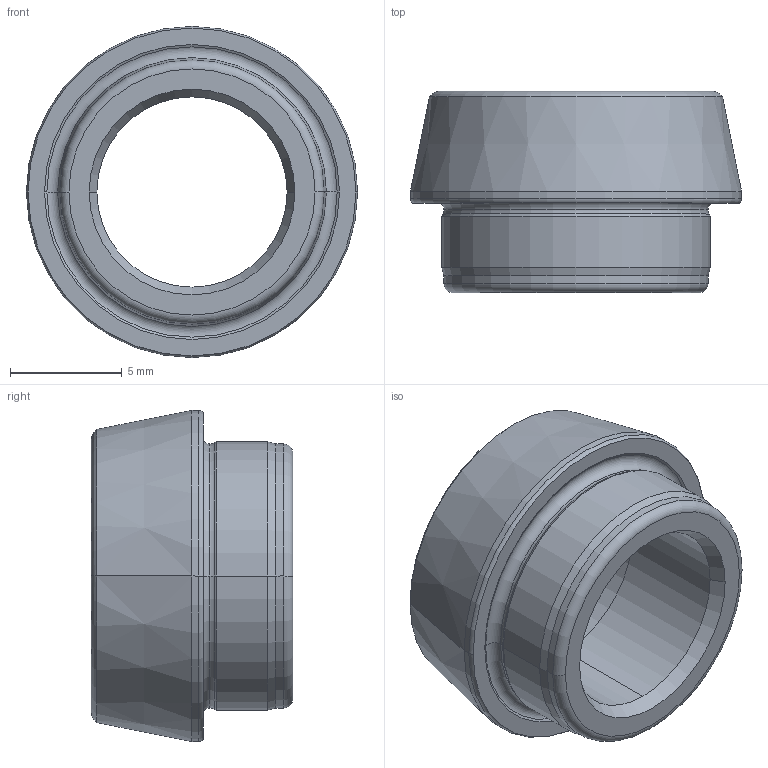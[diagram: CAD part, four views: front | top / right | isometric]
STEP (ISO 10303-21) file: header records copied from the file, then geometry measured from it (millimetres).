
FILE_DESCRIPTION (( 'STEP AP203' ), '1' );
FILE_NAME ('VXF0080-PD.STEP', '2014-11-25T04:58:01', ( '0393' ), ( 'Hewlett-Packard Company' ), 'SwSTEP 2.0', 'SolidWorks 2013', '' );
FILE_SCHEMA (( 'CONFIG_CONTROL_DESIGN' ));
Length unit declared in the file: millimetre
Products named in the file (1): VXF0080-PD
Bounding box: 14.8 x 9 x 14.8 mm (x, y, z)
Volume: 689.4 mm3; surface area: 771.8 mm2
Topology: 1 solids, 1 shells, 35 faces, 72 edges, 40 vertices
Faces by surface type: cone 12, torus 10, cylinder 10, plane 3
Entity records: 1005 total; most frequent: DIRECTION 194, CARTESIAN_POINT 148, ORIENTED_EDGE 144, AXIS2_PLACEMENT_3D 86, EDGE_CURVE 72, CIRCLE 50, VERTEX_POINT 40, EDGE_LOOP 38
